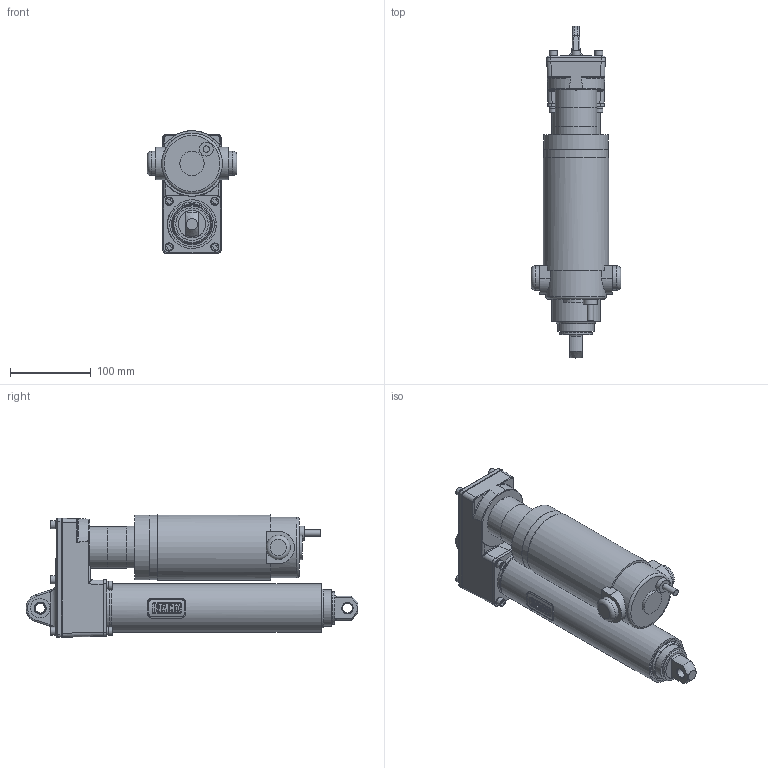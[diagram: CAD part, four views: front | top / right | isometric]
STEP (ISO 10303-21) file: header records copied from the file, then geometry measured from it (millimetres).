
FILE_DESCRIPTION(/* description */ (''),/* implementation_level */ '2;1');
FILE_NAME(/* name */ 'T6N4-DC-0200-Transtechno-162-134-3',/* time_stamp */ '2017-10-12T10:28:24+02:00',/* author */ ('Christoph Hahmann'),/* organization */ ('RACO'),/* preprocessor_version */ 'ST-DEVELOPER v16.7',/* originating_system */ 'DEX',/* authorisation */ $);
FILE_SCHEMA (('AUTOMOTIVE_DESIGN {1 0 10303 214 3 1 1}'));
Length unit declared in the file: millimetre
Products named in the file (7): T6N4-DC-0200-Transtechno-162-134-3; 12.00-C2_4_Auge; _P52_1_7_C80_NO_FL; 01.01-C4_kpl_Gabelauge; EC_180_240_56_B14; 01.15-C4-0200; 02.14-C4-0200
Assembly tree (6 placements, depth 2):
  T6N4-DC-0200-Transtechno-162-134-3
    12.00-C2_4_Auge
    _P52_1_7_C80_NO_FL
    01.01-C4_kpl_Gabelauge
    EC_180_240_56_B14
    01.15-C4-0200
    02.14-C4-0200
Bounding box: 111 x 410.09 x 151.5 mm (x, y, z)
Volume: 2489255 mm3; surface area: 276152.2 mm2
Topology: 7 solids, 9 shells, 610 faces, 1470 edges, 956 vertices
Faces by surface type: plane 310, cylinder 225, bspline 36, cone 21, torus 18
Full cylindrical faces by diameter (mm): 1 x5, 3.242 x2, 4.134 x8, 5.5 x4, 8 x1, 9 x1, 10 x9, 10.05 x8, 11.4 x1, 12 x3, 14 x4, 17 x1, 24 x2, 30 x4, 32 x1, 38.9 x1, 40 x1, 44 x1, 45 x2, 45.001 x1, 50 x2, 51.9 x1, 52 x2, 55.001 x1, 75 x1, 80 x2, 81 x1
Entity records: 18062 total; most frequent: CARTESIAN_POINT 4268, DIRECTION 2752, ORIENTED_EDGE 2622, EDGE_CURVE 1311, AXIS2_PLACEMENT_3D 1053, VERTEX_POINT 916, FACE_BOUND 821, EDGE_LOOP 816
